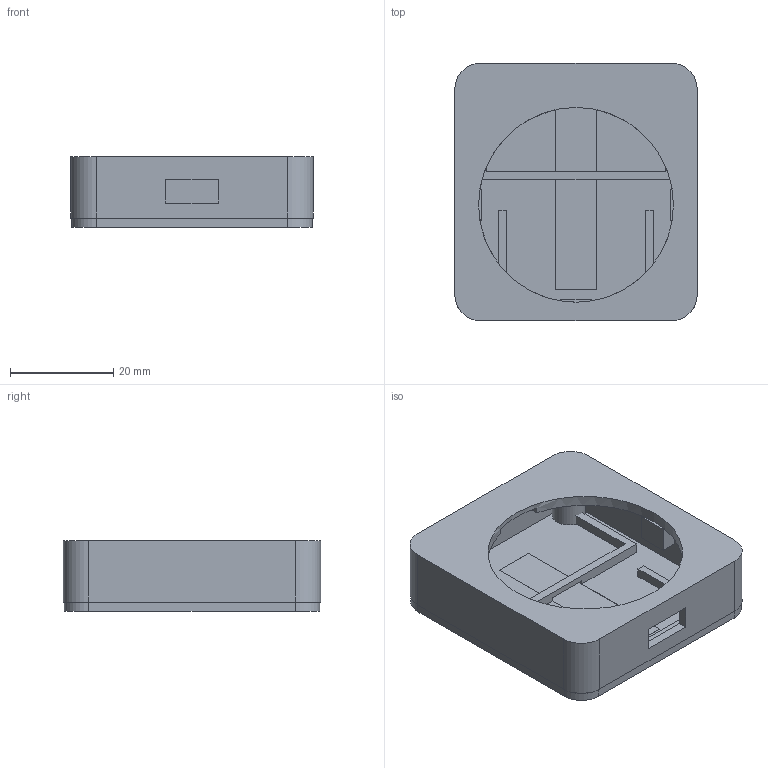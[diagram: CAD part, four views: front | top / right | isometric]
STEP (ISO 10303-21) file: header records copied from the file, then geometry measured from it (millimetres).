
FILE_DESCRIPTION(('Open CASCADE Model'),'2;1');
FILE_NAME('Open CASCADE Shape Model','2026-08-12T19:08:56',('Author'),( 'Open CASCADE'),'Open CASCADE STEP processor 7.9','Open CASCADE 7.9' ,'Unknown');
FILE_SCHEMA(('AUTOMOTIVE_DESIGN { 1 0 10303 214 1 1 1 1 }'));
Length unit declared in the file: millimetre
Products named in the file (3): Cirque_TM040040_enclosure; top_shell; bottom_plate
Assembly tree (2 placements, depth 2):
  Cirque_TM040040_enclosure
    top_shell
    bottom_plate
Bounding box: 47 x 50 x 13.7 mm (x, y, z)
Volume: 11123.5 mm3; surface area: 13089.6 mm2
Topology: 2 solids, 2 shells, 118 faces, 325 edges, 214 vertices
Faces by surface type: plane 84, cylinder 34
Full cylindrical faces by diameter (mm): 2.4 x4, 3.2 x4, 4.3 x4, 10.4 x2, 37.8 x1
Entity records: 8082 total; most frequent: CARTESIAN_POINT 1758, DIRECTION 1111, ORIENTED_EDGE 650, PCURVE 650, DEFINITIONAL_REPRESENTATION 650, LINE 643, VECTOR 643, EDGE_CURVE 325
